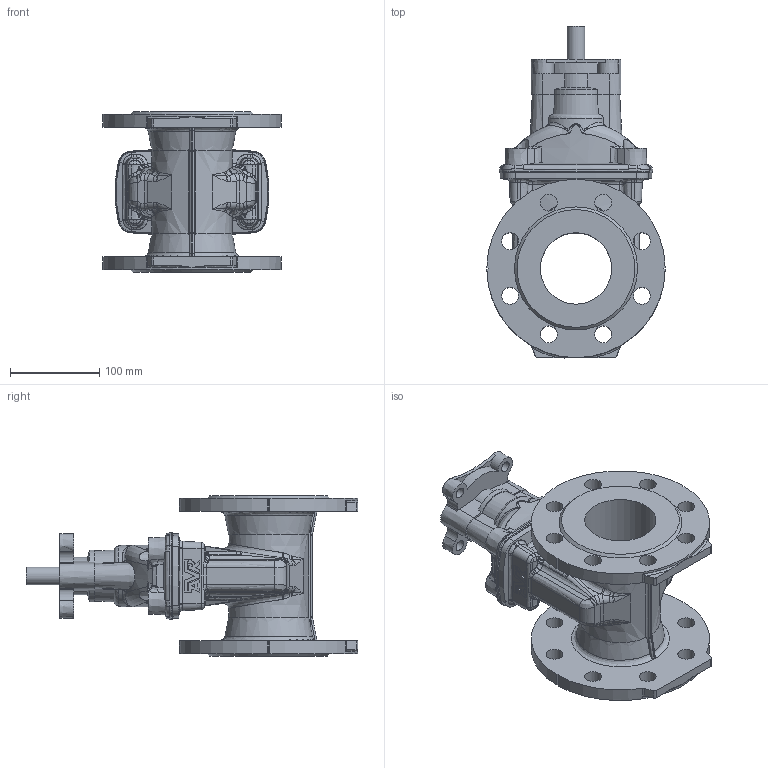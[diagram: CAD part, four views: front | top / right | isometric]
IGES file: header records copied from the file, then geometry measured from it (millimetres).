
Start section: SolidWorks IGES file using analytic representation for surfaces
Global section: file name: \\avksan2\techshare\PBM outline export from Enovia\O_06_42_DN080_X1XXX_REV02.igs; native system: SolidWorks 2022; preprocessor: SolidWorks 2022; author: pbm; date: 251218.075333; units: millimetre
Bounding box: 199.98 x 372.12 x 180 mm (x, y, z)
Surface area: 323125.3 mm2 (no closed solid volume)
Topology: 0 solids, 0 shells, 597 faces, 2997 edges, 2946 vertices
Faces by surface type: bspline 351, revolution 246
